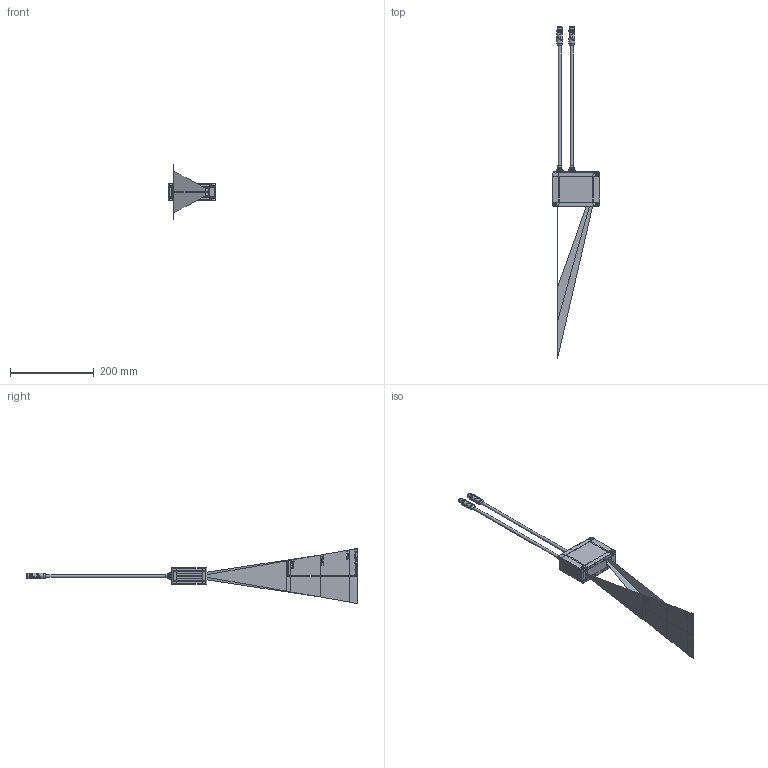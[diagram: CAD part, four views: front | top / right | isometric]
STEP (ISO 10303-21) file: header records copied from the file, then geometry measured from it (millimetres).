
FILE_DESCRIPTION (( 'STEP AP214' ), '1' );
FILE_NAME ('LLT30xx-100-PT.STEP', '2026-07-22T08:23:25', ( '' ), ( '' ), 'SwSTEP 2.0', 'SolidWorks 2024', '' );
FILE_SCHEMA (( 'AUTOMOTIVE_DESIGN' ));
Length unit declared in the file: millimetre
Products named in the file (1): LLT30xx-100-PT
Bounding box: 112 x 790.5 x 131.3 mm (x, y, z)
Volume: 391663 mm3; surface area: 159394.3 mm2
Topology: 3 solids, 10 shells, 4204 faces, 9587 edges, 5542 vertices
Faces by surface type: plane 2317, cone 936, cylinder 488, bspline 435, torus 28
Full cylindrical faces by diameter (mm): 0.6 x8, 0.7 x12, 2.4 x3, 3.8 x16, 4.2 x3, 4.4 x16, 6.8 x4, 8 x4, 8.35 x2, 8.4 x4, 9.2 x2, 9.4 x2, 9.5 x2, 10.5 x2, 10.7 x2, 11.2 x2, 12 x2, 13 x2, 13.5 x2, 15 x2
Entity records: 175756 total; most frequent: CARTESIAN_POINT 49214, ORIENTED_EDGE 18638, DIRECTION 15583, EDGE_CURVE 9319, AXIS2_PLACEMENT_3D 5664, VERTEX_POINT 5480, EDGE_LOOP 4567, FACE_OUTER_BOUND 4326
